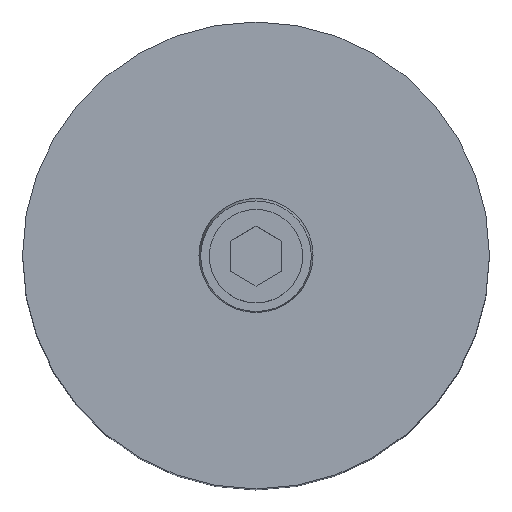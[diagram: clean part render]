
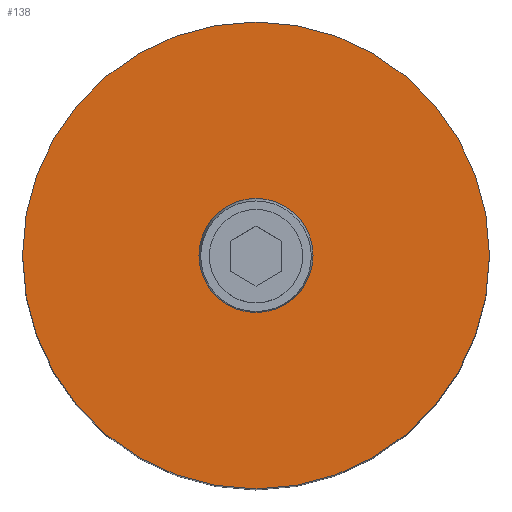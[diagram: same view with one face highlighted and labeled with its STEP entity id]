
A CAD part, top view. The second image highlights one B-rep face of the part: STEP entity #138.
In plain terms, the highlighted planar face has unit normal (0, 0, 1).
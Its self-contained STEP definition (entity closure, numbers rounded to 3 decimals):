
#107=PLANE('',#636);
#122=FACE_BOUND('',#215,.T.);
#123=FACE_BOUND('',#216,.T.);
#138=ADVANCED_FACE('',(#122,#123),#107,.T.);
#215=EDGE_LOOP('',(#297,#298));
#216=EDGE_LOOP('',(#299,#300));
#255=CIRCLE('',#628,45.);
#258=CIRCLE('',#632,45.);
#259=CIRCLE('',#634,11.);
#260=CIRCLE('',#635,11.);
#297=ORIENTED_EDGE('',*,*,#484,.T.);
#298=ORIENTED_EDGE('',*,*,#480,.T.);
#299=ORIENTED_EDGE('',*,*,#485,.F.);
#300=ORIENTED_EDGE('',*,*,#486,.F.);
#434=VERTEX_POINT('',#878);
#435=VERTEX_POINT('',#880);
#437=VERTEX_POINT('',#889);
#438=VERTEX_POINT('',#890);
#480=EDGE_CURVE('',#435,#434,#255,.T.);
#484=EDGE_CURVE('',#434,#435,#258,.T.);
#485=EDGE_CURVE('',#437,#438,#259,.T.);
#486=EDGE_CURVE('',#438,#437,#260,.T.);
#628=AXIS2_PLACEMENT_3D('',#879,#700,#701);
#632=AXIS2_PLACEMENT_3D('',#886,#709,#710);
#634=AXIS2_PLACEMENT_3D('',#888,#713,#714);
#635=AXIS2_PLACEMENT_3D('',#891,#715,#716);
#636=AXIS2_PLACEMENT_3D('',#892,#717,#718);
#700=DIRECTION('',(0.,0.,1.));
#701=DIRECTION('',(0.,1.,0.));
#709=DIRECTION('',(0.,0.,1.));
#710=DIRECTION('',(0.,-1.,0.));
#713=DIRECTION('',(0.,0.,1.));
#714=DIRECTION('',(0.,1.,0.));
#715=DIRECTION('',(0.,0.,1.));
#716=DIRECTION('',(0.,-1.,0.));
#717=DIRECTION('',(0.,0.,1.));
#718=DIRECTION('',(0.,-1.,0.));
#878=CARTESIAN_POINT('',(45.,0.,120.));
#879=CARTESIAN_POINT('',(0.,0.,120.));
#880=CARTESIAN_POINT('',(-45.,0.,120.));
#886=CARTESIAN_POINT('',(0.,0.,120.));
#888=CARTESIAN_POINT('',(0.,0.,120.));
#889=CARTESIAN_POINT('',(-11.,0.,120.));
#890=CARTESIAN_POINT('',(11.,0.,120.));
#891=CARTESIAN_POINT('',(0.,0.,120.));
#892=CARTESIAN_POINT('',(0.,0.,120.));
